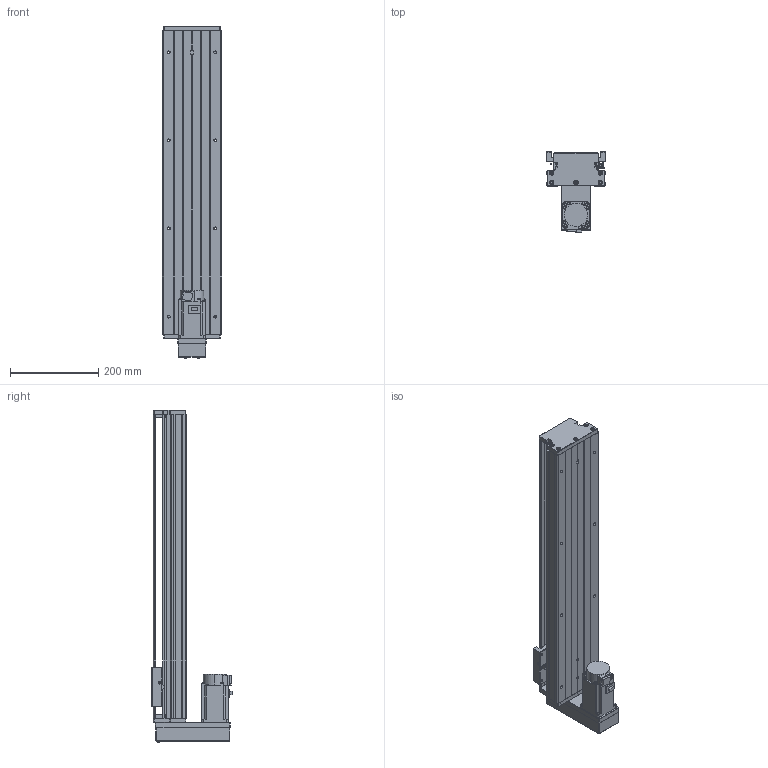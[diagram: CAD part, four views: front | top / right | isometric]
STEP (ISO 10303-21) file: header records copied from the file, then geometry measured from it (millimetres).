
FILE_DESCRIPTION (( 'STEP AP203' ), '1' );
FILE_NAME ('KTH130-550-BM-M40-C4.step', '2023-06-30T04:05:05', ( '微软用户' ), ( '微软中国' ), 'SwSTEP 2.0', 'SolidWorks 2020', '' );
FILE_SCHEMA (( 'CONFIG_CONTROL_DESIGN' ));
Length unit declared in the file: millimetre
Products named in the file (19): GBT 70.2-M3¡Á5_M3¡Á6; GBT 70.3-M3℅8; GTH14-001_550; CTHA60-017; HG-KN43J-S100; KTH130-002_KTH130-002; EE_SX911P_R; GBT 70.2-M4¡Á35_M4¡Á35; KTH130-004; CTHA60-016; GTH14-015-2_CTHA86-015-2; KTH130-005; GBT 70.1-M3℅5; GTH14-033; GB1155-6X6; GBT77-2000 M3×3; KTH130-550-BM-M40-C4; GBT70.1 M5℅16; す晦芛蹟隊 M3℅5
Assembly tree (53 placements, depth 2):
  KTH130-550-BM-M40-C4
    GTH14-001_550
    KTH130-002_KTH130-002
    KTH130-004
    KTH130-005
    GB1155-6X6  x2
    GBT70.1 M5℅16  x10
    GBT 70.2-M3¡Á5_M3¡Á6  x4
    CTHA60-017  x3
    EE_SX911P_R  x3
    CTHA60-016  x2
    GBT 70.1-M3℅5  x6
    GBT77-2000 M3×3  x6
    す晦芛蹟隊 M3℅5  x2
    GBT 70.3-M3℅8  x4
    HG-KN43J-S100
    GBT 70.2-M4¡Á35_M4¡Á35  x4
    GTH14-015-2_CTHA86-015-2
    GTH14-033
Bounding box: 135 x 181.8 x 754.2 mm (x, y, z)
Volume: 4387945.5 mm3; surface area: 729553.5 mm2
Topology: 56 solids, 56 shells, 2213 faces, 5342 edges, 3326 vertices
Faces by surface type: plane 1195, cylinder 604, cone 290, torus 100, sphere 24
Entity records: 40250 total; most frequent: CARTESIAN_POINT 8584, DIRECTION 5979, ORIENTED_EDGE 5884, EDGE_CURVE 2942, AXIS2_PLACEMENT_3D 2052, VERTEX_POINT 1879, VECTOR 1875, LINE 1875
